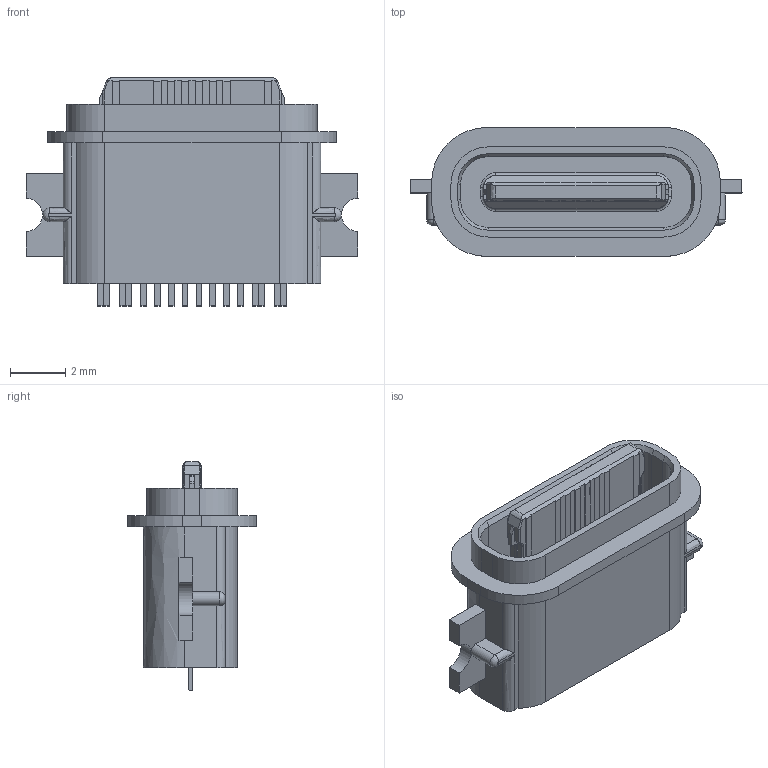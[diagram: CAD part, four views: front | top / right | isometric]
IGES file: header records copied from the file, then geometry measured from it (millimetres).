
Start section:  PTC IGES file: 004.igs
Global section: file name: 004.igs; native system: Creo Parametric by PTC Inc.; preprocessor: 2019080; author: Administrator; organization: Unknown; date: 20230418.090859; units: millimetre
Bounding box: 12 x 4.66 x 8.25 mm (x, y, z)
Surface area: 404.6 mm2 (no closed solid volume)
Topology: 0 solids, 0 shells, 361 faces, 1938 edges, 1938 vertices
Faces by surface type: bspline 261, revolution 100
